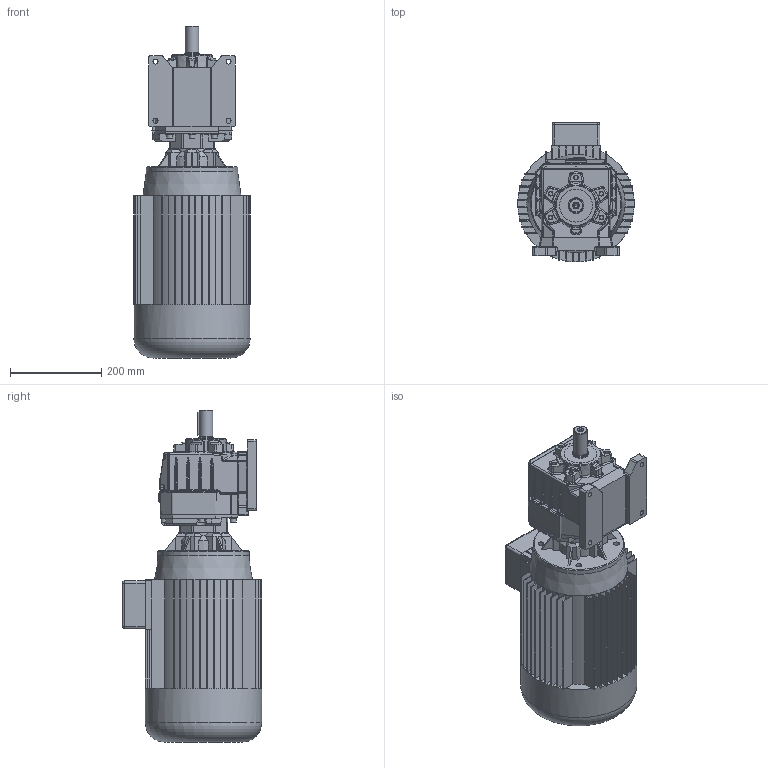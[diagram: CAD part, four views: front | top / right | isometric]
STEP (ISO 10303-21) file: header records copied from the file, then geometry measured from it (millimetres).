
FILE_DESCRIPTION( ( 'Unknown' ), '1' );
FILE_NAME( 'E:/services/configuratordownloads/customers/HYDROMEC/COASSIALI/download/6225FFF43F81DA04875FD4C141894/STEP/6225FFF43F81DA04875FD4C141894.3d.stp', 'Unknown', ( 'Unknown' ), ( 'Unknown' ), 'PSStep 10.1', 'Unknown', ' ' );
FILE_SCHEMA( ( 'AUTOMOTIVE_DESIGN { 1 0 10303 214 1 1 1 1 }' ) );
Length unit declared in the file: millimetre
Products named in the file (1): C518800
Bounding box: 254.95 x 305.48 x 727.4 mm (x, y, z)
Volume: 23007610.7 mm3; surface area: 1183463.4 mm2
Topology: 1 solids, 35 shells, 1939 faces, 4836 edges, 3014 vertices
Faces by surface type: plane 1031, cylinder 496, bspline 215, cone 99, torus 66, sphere 20, revolution 8, extrusion 4
Full cylindrical faces by diameter (mm): 4.917 x6, 6 x6, 6.5 x1, 7.262 x6, 8 x1, 8.376 x11, 8.5 x12, 10 x6, 10.106 x8, 10.5 x1, 11 x4, 11.3 x1, 11.445 x2, 12.5 x4, 12.75 x8, 13 x13, 13.5 x1, 18 x1, 19 x1, 20 x1, 22 x1, 28.6 x1, 30 x1, 35 x1, 38 x1, 40 x1, 43.5 x1, 61 x1, 63 x1, 72 x1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
Entity records: 91178 total; most frequent: CARTESIAN_POINT 31164, DIRECTION 9222, ORIENTED_EDGE 9088, EDGE_CURVE 4544, AXIS2_PLACEMENT_3D 3294, VERTEX_POINT 2930, VECTOR 2626, LINE 2622
